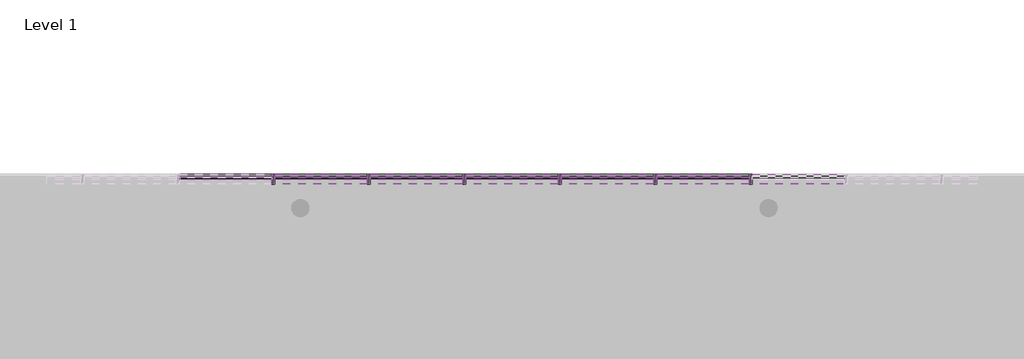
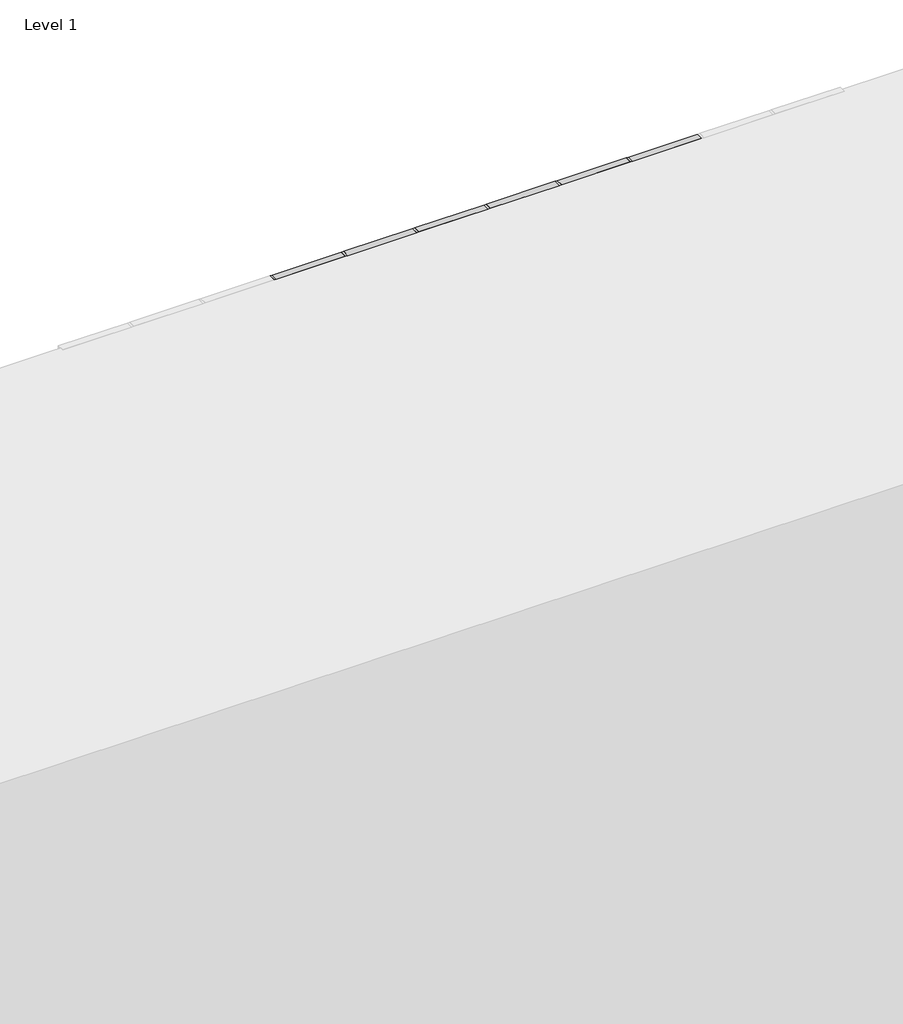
# One storey, part 7 of 18: 90 members, 40 plates.
"""IFC4 building model written with IfcOpenShell, lengths in millimetres."""

from ifc_helpers import new_model, si_unit, origin, place, context, project, spatial, transform, mapped, element, save
from components import rectangular_mullion_50mm_x_150mm_5f185edf, rectangular_mullion_50mm_x_150mm_e13fe9f0, rectangular_mullion_50mm_x_150mm_bbc1c4ea, rectangular_mullion_50mm_x_150mm_36202a7c, rectangular_mullion_50mm_x_150mm_84717ec5, system_panel_glazed_65478968, system_panel_glazed_4c130a31, system_panel_solid_368a6b70, system_panel_solid_ece33ae8

model = new_model("IFC4")

# Units and contexts
model_context = context("Model", 3, world=origin())
ifc_project = project(units=[si_unit("LENGTHUNIT", "METRE", prefix="MILLI")], contexts=[model_context])

# Site, building, storey
site = spatial("IfcSite", under=ifc_project)
building = spatial("IfcBuilding", under=site)
storey = spatial("IfcBuildingStorey", under=building, Name="Level 1", Elevation=0.0)

# Members
placement = place(None, origin())
rectangular_mullion_50mm_x_150mm_shape = rectangular_mullion_50mm_x_150mm_5f185edf(model_context)
element("IfcMember", 1, ObjectType="Rectangular Mullion : 50mm x 150mm", at=placement, inside=storey, context=model_context, shape_type="MappedRepresentation", body=[
    mapped(rectangular_mullion_50mm_x_150mm_shape, transform((41799.3851363, -12132.3615692, 12400.0), x_axis=(0.0, 0.0, 1.0), y_axis=(0.0, 1.0, 0.0), z_axis=(-1.0, 0.0, 0.0))),
])
element("IfcMember", 2, ObjectType="Rectangular Mullion : 50mm x 150mm", at=placement, inside=storey, context=model_context, shape_type="MappedRepresentation", body=[
    mapped(rectangular_mullion_50mm_x_150mm_shape, transform((40306.9119162, -12132.3615692, 12400.0), x_axis=(0.0, 0.0, 1.0), y_axis=(0.0, 1.0, 0.0), z_axis=(-1.0, 0.0, 0.0))),
])
element("IfcMember", 3, ObjectType="Rectangular Mullion : 50mm x 150mm", at=placement, inside=storey, context=model_context, shape_type="MappedRepresentation", body=[
    mapped(rectangular_mullion_50mm_x_150mm_shape, transform((38814.438696, -12132.3615692, 12400.0), x_axis=(0.0, 0.0, 1.0), y_axis=(0.0, 1.0, 0.0), z_axis=(-1.0, 0.0, 0.0))),
])
element("IfcMember", 4, ObjectType="Rectangular Mullion : 50mm x 150mm", at=placement, inside=storey, context=model_context, shape_type="MappedRepresentation", body=[
    mapped(rectangular_mullion_50mm_x_150mm_shape, transform((37321.9654758, -12132.3615692, 12400.0), x_axis=(0.0, 0.0, 1.0), y_axis=(0.0, 1.0, 0.0), z_axis=(-1.0, 0.0, 0.0))),
])
element("IfcMember", 5, ObjectType="Rectangular Mullion : 50mm x 150mm", at=placement, inside=storey, context=model_context, shape_type="MappedRepresentation", body=[
    mapped(rectangular_mullion_50mm_x_150mm_shape, transform((35829.4922557, -12132.3615692, 12400.0), x_axis=(0.0, 0.0, 1.0), y_axis=(0.0, 1.0, 0.0), z_axis=(-1.0, 0.0, 0.0))),
])
element("IfcMember", 6, ObjectType="Rectangular Mullion : 50mm x 150mm", at=placement, inside=storey, context=model_context, shape_type="MappedRepresentation", body=[
    mapped(rectangular_mullion_50mm_x_150mm_shape, transform((34337.0190355, -12132.3615692, 12400.0), x_axis=(0.0, 0.0, 1.0), y_axis=(0.0, 1.0, 0.0), z_axis=(-1.0, 0.0, 0.0))),
])
element("IfcMember", 7, ObjectType="Rectangular Mullion : 50mm x 150mm", at=placement, inside=storey, context=model_context, shape_type="MappedRepresentation", body=[
    mapped(rectangular_mullion_50mm_x_150mm_shape, transform((41749.3851363, -12132.3615692, 0.0), x_axis=(0.0, 0.0, -1.0), y_axis=(0.0, 1.0, 0.0), z_axis=(1.0, 0.0, 0.0))),
])
element("IfcMember", 8, ObjectType="Rectangular Mullion : 50mm x 150mm", at=placement, inside=storey, context=model_context, shape_type="MappedRepresentation", body=[
    mapped(rectangular_mullion_50mm_x_150mm_shape, transform((40256.9119162, -12132.3615692, 0.0), x_axis=(0.0, 0.0, -1.0), y_axis=(0.0, 1.0, 0.0), z_axis=(1.0, 0.0, 0.0))),
])
element("IfcMember", 9, ObjectType="Rectangular Mullion : 50mm x 150mm", at=placement, inside=storey, context=model_context, shape_type="MappedRepresentation", body=[
    mapped(rectangular_mullion_50mm_x_150mm_shape, transform((38764.438696, -12132.3615692, 0.0), x_axis=(0.0, 0.0, -1.0), y_axis=(0.0, 1.0, 0.0), z_axis=(1.0, 0.0, 0.0))),
])
element("IfcMember", 10, ObjectType="Rectangular Mullion : 50mm x 150mm", at=placement, inside=storey, context=model_context, shape_type="MappedRepresentation", body=[
    mapped(rectangular_mullion_50mm_x_150mm_shape, transform((37271.9654758, -12132.3615692, 0.0), x_axis=(0.0, 0.0, -1.0), y_axis=(0.0, 1.0, 0.0), z_axis=(1.0, 0.0, 0.0))),
])
element("IfcMember", 11, ObjectType="Rectangular Mullion : 50mm x 150mm", at=placement, inside=storey, context=model_context, shape_type="MappedRepresentation", body=[
    mapped(rectangular_mullion_50mm_x_150mm_shape, transform((35779.4922557, -12132.3615692, 0.0), x_axis=(0.0, 0.0, -1.0), y_axis=(0.0, 1.0, 0.0), z_axis=(1.0, 0.0, 0.0))),
])
element("IfcMember", 12, ObjectType="Rectangular Mullion : 50mm x 150mm", at=placement, inside=storey, context=model_context, shape_type="MappedRepresentation", body=[
    mapped(rectangular_mullion_50mm_x_150mm_shape, transform((34287.0190355, -12132.3615692, 0.0), x_axis=(0.0, 0.0, -1.0), y_axis=(0.0, 1.0, 0.0), z_axis=(1.0, 0.0, 0.0))),
])
rectangular_mullion_50mm_x_150mm_2_shape = rectangular_mullion_50mm_x_150mm_e13fe9f0(model_context)
element("IfcMember", 13, ObjectType="Rectangular Mullion : 50mm x 150mm", at=placement, inside=storey, context=model_context, shape_type="MappedRepresentation", body=[
    mapped(rectangular_mullion_50mm_x_150mm_2_shape, transform((41799.3851363, -12132.3615692, 3800.0), x_axis=(0.0, 0.0, 1.0), y_axis=(0.0, 1.0, 0.0), z_axis=(-1.0, 0.0, 0.0))),
])
element("IfcMember", 14, ObjectType="Rectangular Mullion : 50mm x 150mm", at=placement, inside=storey, context=model_context, shape_type="MappedRepresentation", body=[
    mapped(rectangular_mullion_50mm_x_150mm_2_shape, transform((40306.9119162, -12132.3615692, 3800.0), x_axis=(0.0, 0.0, 1.0), y_axis=(0.0, 1.0, 0.0), z_axis=(-1.0, 0.0, 0.0))),
])
element("IfcMember", 15, ObjectType="Rectangular Mullion : 50mm x 150mm", at=placement, inside=storey, context=model_context, shape_type="MappedRepresentation", body=[
    mapped(rectangular_mullion_50mm_x_150mm_2_shape, transform((38814.438696, -12132.3615692, 3800.0), x_axis=(0.0, 0.0, 1.0), y_axis=(0.0, 1.0, 0.0), z_axis=(-1.0, 0.0, 0.0))),
])
element("IfcMember", 16, ObjectType="Rectangular Mullion : 50mm x 150mm", at=placement, inside=storey, context=model_context, shape_type="MappedRepresentation", body=[
    mapped(rectangular_mullion_50mm_x_150mm_2_shape, transform((37321.9654758, -12132.3615692, 3800.0), x_axis=(0.0, 0.0, 1.0), y_axis=(0.0, 1.0, 0.0), z_axis=(-1.0, 0.0, 0.0))),
])
element("IfcMember", 17, ObjectType="Rectangular Mullion : 50mm x 150mm", at=placement, inside=storey, context=model_context, shape_type="MappedRepresentation", body=[
    mapped(rectangular_mullion_50mm_x_150mm_2_shape, transform((35829.4922557, -12132.3615692, 3800.0), x_axis=(0.0, 0.0, 1.0), y_axis=(0.0, 1.0, 0.0), z_axis=(-1.0, 0.0, 0.0))),
])
element("IfcMember", 18, ObjectType="Rectangular Mullion : 50mm x 150mm", at=placement, inside=storey, context=model_context, shape_type="MappedRepresentation", body=[
    mapped(rectangular_mullion_50mm_x_150mm_2_shape, transform((34337.0190355, -12132.3615692, 3800.0), x_axis=(0.0, 0.0, 1.0), y_axis=(0.0, 1.0, 0.0), z_axis=(-1.0, 0.0, 0.0))),
])
element("IfcMember", 19, ObjectType="Rectangular Mullion : 50mm x 150mm", at=placement, inside=storey, context=model_context, shape_type="MappedRepresentation", body=[
    mapped(rectangular_mullion_50mm_x_150mm_2_shape, transform((41799.3851363, -12132.3615692, 7600.0), x_axis=(0.0, 0.0, 1.0), y_axis=(0.0, 1.0, 0.0), z_axis=(-1.0, 0.0, 0.0))),
])
element("IfcMember", 20, ObjectType="Rectangular Mullion : 50mm x 150mm", at=placement, inside=storey, context=model_context, shape_type="MappedRepresentation", body=[
    mapped(rectangular_mullion_50mm_x_150mm_2_shape, transform((40306.9119162, -12132.3615692, 7600.0), x_axis=(0.0, 0.0, 1.0), y_axis=(0.0, 1.0, 0.0), z_axis=(-1.0, 0.0, 0.0))),
])
element("IfcMember", 21, ObjectType="Rectangular Mullion : 50mm x 150mm", at=placement, inside=storey, context=model_context, shape_type="MappedRepresentation", body=[
    mapped(rectangular_mullion_50mm_x_150mm_2_shape, transform((38814.438696, -12132.3615692, 7600.0), x_axis=(0.0, 0.0, 1.0), y_axis=(0.0, 1.0, 0.0), z_axis=(-1.0, 0.0, 0.0))),
])
element("IfcMember", 22, ObjectType="Rectangular Mullion : 50mm x 150mm", at=placement, inside=storey, context=model_context, shape_type="MappedRepresentation", body=[
    mapped(rectangular_mullion_50mm_x_150mm_2_shape, transform((37321.9654758, -12132.3615692, 7600.0), x_axis=(0.0, 0.0, 1.0), y_axis=(0.0, 1.0, 0.0), z_axis=(-1.0, 0.0, 0.0))),
])
element("IfcMember", 23, ObjectType="Rectangular Mullion : 50mm x 150mm", at=placement, inside=storey, context=model_context, shape_type="MappedRepresentation", body=[
    mapped(rectangular_mullion_50mm_x_150mm_2_shape, transform((35829.4922557, -12132.3615692, 7600.0), x_axis=(0.0, 0.0, 1.0), y_axis=(0.0, 1.0, 0.0), z_axis=(-1.0, 0.0, 0.0))),
])
element("IfcMember", 24, ObjectType="Rectangular Mullion : 50mm x 150mm", at=placement, inside=storey, context=model_context, shape_type="MappedRepresentation", body=[
    mapped(rectangular_mullion_50mm_x_150mm_2_shape, transform((34337.0190355, -12132.3615692, 7600.0), x_axis=(0.0, 0.0, 1.0), y_axis=(0.0, 1.0, 0.0), z_axis=(-1.0, 0.0, 0.0))),
])
element("IfcMember", 25, ObjectType="Rectangular Mullion : 50mm x 150mm", at=placement, inside=storey, context=model_context, shape_type="MappedRepresentation", body=[
    mapped(rectangular_mullion_50mm_x_150mm_2_shape, transform((41799.3851363, -12132.3615692, 11400.0), x_axis=(0.0, 0.0, 1.0), y_axis=(0.0, 1.0, 0.0), z_axis=(-1.0, 0.0, 0.0))),
])
element("IfcMember", 26, ObjectType="Rectangular Mullion : 50mm x 150mm", at=placement, inside=storey, context=model_context, shape_type="MappedRepresentation", body=[
    mapped(rectangular_mullion_50mm_x_150mm_2_shape, transform((40306.9119162, -12132.3615692, 11400.0), x_axis=(0.0, 0.0, 1.0), y_axis=(0.0, 1.0, 0.0), z_axis=(-1.0, 0.0, 0.0))),
])
element("IfcMember", 27, ObjectType="Rectangular Mullion : 50mm x 150mm", at=placement, inside=storey, context=model_context, shape_type="MappedRepresentation", body=[
    mapped(rectangular_mullion_50mm_x_150mm_2_shape, transform((38814.438696, -12132.3615692, 11400.0), x_axis=(0.0, 0.0, 1.0), y_axis=(0.0, 1.0, 0.0), z_axis=(-1.0, 0.0, 0.0))),
])
element("IfcMember", 28, ObjectType="Rectangular Mullion : 50mm x 150mm", at=placement, inside=storey, context=model_context, shape_type="MappedRepresentation", body=[
    mapped(rectangular_mullion_50mm_x_150mm_2_shape, transform((37321.9654758, -12132.3615692, 11400.0), x_axis=(0.0, 0.0, 1.0), y_axis=(0.0, 1.0, 0.0), z_axis=(-1.0, 0.0, 0.0))),
])
element("IfcMember", 29, ObjectType="Rectangular Mullion : 50mm x 150mm", at=placement, inside=storey, context=model_context, shape_type="MappedRepresentation", body=[
    mapped(rectangular_mullion_50mm_x_150mm_2_shape, transform((35829.4922557, -12132.3615692, 11400.0), x_axis=(0.0, 0.0, 1.0), y_axis=(0.0, 1.0, 0.0), z_axis=(-1.0, 0.0, 0.0))),
])
element("IfcMember", 30, ObjectType="Rectangular Mullion : 50mm x 150mm", at=placement, inside=storey, context=model_context, shape_type="MappedRepresentation", body=[
    mapped(rectangular_mullion_50mm_x_150mm_2_shape, transform((34337.0190355, -12132.3615692, 11400.0), x_axis=(0.0, 0.0, 1.0), y_axis=(0.0, 1.0, 0.0), z_axis=(-1.0, 0.0, 0.0))),
])
element("IfcMember", 31, ObjectType="Rectangular Mullion : 50mm x 150mm", at=placement, inside=storey, context=model_context, shape_type="MappedRepresentation", body=[
    mapped(rectangular_mullion_50mm_x_150mm_2_shape, transform((41799.3851363, -12132.3615692, 2440.0), x_axis=(0.0, 0.0, 1.0), y_axis=(0.0, 1.0, 0.0), z_axis=(-1.0, 0.0, 0.0))),
])
element("IfcMember", 32, ObjectType="Rectangular Mullion : 50mm x 150mm", at=placement, inside=storey, context=model_context, shape_type="MappedRepresentation", body=[
    mapped(rectangular_mullion_50mm_x_150mm_2_shape, transform((40306.9119162, -12132.3615692, 2440.0), x_axis=(0.0, 0.0, 1.0), y_axis=(0.0, 1.0, 0.0), z_axis=(-1.0, 0.0, 0.0))),
])
element("IfcMember", 33, ObjectType="Rectangular Mullion : 50mm x 150mm", at=placement, inside=storey, context=model_context, shape_type="MappedRepresentation", body=[
    mapped(rectangular_mullion_50mm_x_150mm_2_shape, transform((38814.438696, -12132.3615692, 2440.0), x_axis=(0.0, 0.0, 1.0), y_axis=(0.0, 1.0, 0.0), z_axis=(-1.0, 0.0, 0.0))),
])
element("IfcMember", 34, ObjectType="Rectangular Mullion : 50mm x 150mm", at=placement, inside=storey, context=model_context, shape_type="MappedRepresentation", body=[
    mapped(rectangular_mullion_50mm_x_150mm_2_shape, transform((37321.9654758, -12132.3615692, 2440.0), x_axis=(0.0, 0.0, 1.0), y_axis=(0.0, 1.0, 0.0), z_axis=(-1.0, 0.0, 0.0))),
])
element("IfcMember", 35, ObjectType="Rectangular Mullion : 50mm x 150mm", at=placement, inside=storey, context=model_context, shape_type="MappedRepresentation", body=[
    mapped(rectangular_mullion_50mm_x_150mm_2_shape, transform((35829.4922557, -12132.3615692, 2440.0), x_axis=(0.0, 0.0, 1.0), y_axis=(0.0, 1.0, 0.0), z_axis=(-1.0, 0.0, 0.0))),
])
element("IfcMember", 36, ObjectType="Rectangular Mullion : 50mm x 150mm", at=placement, inside=storey, context=model_context, shape_type="MappedRepresentation", body=[
    mapped(rectangular_mullion_50mm_x_150mm_2_shape, transform((34337.0190355, -12132.3615692, 2440.0), x_axis=(0.0, 0.0, 1.0), y_axis=(0.0, 1.0, 0.0), z_axis=(-1.0, 0.0, 0.0))),
])
element("IfcMember", 37, ObjectType="Rectangular Mullion : 50mm x 150mm", at=placement, inside=storey, context=model_context, shape_type="MappedRepresentation", body=[
    mapped(rectangular_mullion_50mm_x_150mm_2_shape, transform((41799.3851363, -12132.3615692, 6240.0), x_axis=(0.0, 0.0, 1.0), y_axis=(0.0, 1.0, 0.0), z_axis=(-1.0, 0.0, 0.0))),
])
element("IfcMember", 38, ObjectType="Rectangular Mullion : 50mm x 150mm", at=placement, inside=storey, context=model_context, shape_type="MappedRepresentation", body=[
    mapped(rectangular_mullion_50mm_x_150mm_2_shape, transform((40306.9119162, -12132.3615692, 6240.0), x_axis=(0.0, 0.0, 1.0), y_axis=(0.0, 1.0, 0.0), z_axis=(-1.0, 0.0, 0.0))),
])
element("IfcMember", 39, ObjectType="Rectangular Mullion : 50mm x 150mm", at=placement, inside=storey, context=model_context, shape_type="MappedRepresentation", body=[
    mapped(rectangular_mullion_50mm_x_150mm_2_shape, transform((38814.438696, -12132.3615692, 6240.0), x_axis=(0.0, 0.0, 1.0), y_axis=(0.0, 1.0, 0.0), z_axis=(-1.0, 0.0, 0.0))),
])
element("IfcMember", 40, ObjectType="Rectangular Mullion : 50mm x 150mm", at=placement, inside=storey, context=model_context, shape_type="MappedRepresentation", body=[
    mapped(rectangular_mullion_50mm_x_150mm_2_shape, transform((37321.9654758, -12132.3615692, 6240.0), x_axis=(0.0, 0.0, 1.0), y_axis=(0.0, 1.0, 0.0), z_axis=(-1.0, 0.0, 0.0))),
])
element("IfcMember", 41, ObjectType="Rectangular Mullion : 50mm x 150mm", at=placement, inside=storey, context=model_context, shape_type="MappedRepresentation", body=[
    mapped(rectangular_mullion_50mm_x_150mm_2_shape, transform((35829.4922557, -12132.3615692, 6240.0), x_axis=(0.0, 0.0, 1.0), y_axis=(0.0, 1.0, 0.0), z_axis=(-1.0, 0.0, 0.0))),
])
element("IfcMember", 42, ObjectType="Rectangular Mullion : 50mm x 150mm", at=placement, inside=storey, context=model_context, shape_type="MappedRepresentation", body=[
    mapped(rectangular_mullion_50mm_x_150mm_2_shape, transform((34337.0190355, -12132.3615692, 6240.0), x_axis=(0.0, 0.0, 1.0), y_axis=(0.0, 1.0, 0.0), z_axis=(-1.0, 0.0, 0.0))),
])
element("IfcMember", 43, ObjectType="Rectangular Mullion : 50mm x 150mm", at=placement, inside=storey, context=model_context, shape_type="MappedRepresentation", body=[
    mapped(rectangular_mullion_50mm_x_150mm_2_shape, transform((41799.3851363, -12132.3615692, 10040.0), x_axis=(0.0, 0.0, 1.0), y_axis=(0.0, 1.0, 0.0), z_axis=(-1.0, 0.0, 0.0))),
])
element("IfcMember", 44, ObjectType="Rectangular Mullion : 50mm x 150mm", at=placement, inside=storey, context=model_context, shape_type="MappedRepresentation", body=[
    mapped(rectangular_mullion_50mm_x_150mm_2_shape, transform((40306.9119162, -12132.3615692, 10040.0), x_axis=(0.0, 0.0, 1.0), y_axis=(0.0, 1.0, 0.0), z_axis=(-1.0, 0.0, 0.0))),
])
element("IfcMember", 45, ObjectType="Rectangular Mullion : 50mm x 150mm", at=placement, inside=storey, context=model_context, shape_type="MappedRepresentation", body=[
    mapped(rectangular_mullion_50mm_x_150mm_2_shape, transform((38814.438696, -12132.3615692, 10040.0), x_axis=(0.0, 0.0, 1.0), y_axis=(0.0, 1.0, 0.0), z_axis=(-1.0, 0.0, 0.0))),
])
element("IfcMember", 46, ObjectType="Rectangular Mullion : 50mm x 150mm", at=placement, inside=storey, context=model_context, shape_type="MappedRepresentation", body=[
    mapped(rectangular_mullion_50mm_x_150mm_2_shape, transform((37321.9654758, -12132.3615692, 10040.0), x_axis=(0.0, 0.0, 1.0), y_axis=(0.0, 1.0, 0.0), z_axis=(-1.0, 0.0, 0.0))),
])
element("IfcMember", 47, ObjectType="Rectangular Mullion : 50mm x 150mm", at=placement, inside=storey, context=model_context, shape_type="MappedRepresentation", body=[
    mapped(rectangular_mullion_50mm_x_150mm_2_shape, transform((35829.4922557, -12132.3615692, 10040.0), x_axis=(0.0, 0.0, 1.0), y_axis=(0.0, 1.0, 0.0), z_axis=(-1.0, 0.0, 0.0))),
])
element("IfcMember", 48, ObjectType="Rectangular Mullion : 50mm x 150mm", at=placement, inside=storey, context=model_context, shape_type="MappedRepresentation", body=[
    mapped(rectangular_mullion_50mm_x_150mm_2_shape, transform((34337.0190355, -12132.3615692, 10040.0), x_axis=(0.0, 0.0, 1.0), y_axis=(0.0, 1.0, 0.0), z_axis=(-1.0, 0.0, 0.0))),
])
rectangular_mullion_50mm_x_150mm_3_shape = rectangular_mullion_50mm_x_150mm_bbc1c4ea(model_context)
element("IfcMember", 49, ObjectType="Rectangular Mullion : 50mm x 150mm", at=placement, inside=storey, context=model_context, shape_type="MappedRepresentation", body=[
    mapped(rectangular_mullion_50mm_x_150mm_3_shape, transform((41774.3851363, -12132.3615692, 11400.0), x_axis=(-1.0, 0.0, 0.0), y_axis=(0.0, 1.0, 0.0), z_axis=(0.0, 0.0, -1.0))),
])
element("IfcMember", 50, ObjectType="Rectangular Mullion : 50mm x 150mm", at=placement, inside=storey, context=model_context, shape_type="MappedRepresentation", body=[
    mapped(rectangular_mullion_50mm_x_150mm_3_shape, transform((40281.9119162, -12132.3615692, 11400.0), x_axis=(-1.0, 0.0, 0.0), y_axis=(0.0, 1.0, 0.0), z_axis=(0.0, 0.0, -1.0))),
])
element("IfcMember", 51, ObjectType="Rectangular Mullion : 50mm x 150mm", at=placement, inside=storey, context=model_context, shape_type="MappedRepresentation", body=[
    mapped(rectangular_mullion_50mm_x_150mm_3_shape, transform((38789.438696, -12132.3615692, 11400.0), x_axis=(-1.0, 0.0, 0.0), y_axis=(0.0, 1.0, 0.0), z_axis=(0.0, 0.0, -1.0))),
])
element("IfcMember", 52, ObjectType="Rectangular Mullion : 50mm x 150mm", at=placement, inside=storey, context=model_context, shape_type="MappedRepresentation", body=[
    mapped(rectangular_mullion_50mm_x_150mm_3_shape, transform((37296.9654758, -12132.3615692, 11400.0), x_axis=(-1.0, 0.0, 0.0), y_axis=(0.0, 1.0, 0.0), z_axis=(0.0, 0.0, -1.0))),
])
element("IfcMember", 53, ObjectType="Rectangular Mullion : 50mm x 150mm", at=placement, inside=storey, context=model_context, shape_type="MappedRepresentation", body=[
    mapped(rectangular_mullion_50mm_x_150mm_3_shape, transform((35804.4922557, -12132.3615692, 11400.0), x_axis=(-1.0, 0.0, 0.0), y_axis=(0.0, 1.0, 0.0), z_axis=(0.0, 0.0, -1.0))),
])
element("IfcMember", 54, ObjectType="Rectangular Mullion : 50mm x 150mm", at=placement, inside=storey, context=model_context, shape_type="MappedRepresentation", body=[
    mapped(rectangular_mullion_50mm_x_150mm_3_shape, transform((34312.0190355, -12132.3615692, 11400.0), x_axis=(-1.0, 0.0, 0.0), y_axis=(0.0, 1.0, 0.0), z_axis=(0.0, 0.0, -1.0))),
])
rectangular_mullion_50mm_x_150mm_4_shape = rectangular_mullion_50mm_x_150mm_36202a7c(model_context)
element("IfcMember", 55, ObjectType="Rectangular Mullion : 50mm x 150mm", at=placement, inside=storey, context=model_context, shape_type="MappedRepresentation", body=[
    mapped(rectangular_mullion_50mm_x_150mm_4_shape, transform((41774.3851363, -12132.3615692, 0.0), x_axis=(-1.0, 0.0, 0.0), y_axis=(0.0, 1.0, 0.0), z_axis=(0.0, 0.0, -1.0))),
])
element("IfcMember", 56, ObjectType="Rectangular Mullion : 50mm x 150mm", at=placement, inside=storey, context=model_context, shape_type="MappedRepresentation", body=[
    mapped(rectangular_mullion_50mm_x_150mm_4_shape, transform((40281.9119162, -12132.3615692, 0.0), x_axis=(-1.0, 0.0, 0.0), y_axis=(0.0, 1.0, 0.0), z_axis=(0.0, 0.0, -1.0))),
])
element("IfcMember", 57, ObjectType="Rectangular Mullion : 50mm x 150mm", at=placement, inside=storey, context=model_context, shape_type="MappedRepresentation", body=[
    mapped(rectangular_mullion_50mm_x_150mm_4_shape, transform((38789.438696, -12132.3615692, 0.0), x_axis=(-1.0, 0.0, 0.0), y_axis=(0.0, 1.0, 0.0), z_axis=(0.0, 0.0, -1.0))),
])
element("IfcMember", 58, ObjectType="Rectangular Mullion : 50mm x 150mm", at=placement, inside=storey, context=model_context, shape_type="MappedRepresentation", body=[
    mapped(rectangular_mullion_50mm_x_150mm_4_shape, transform((37296.9654758, -12132.3615692, 0.0), x_axis=(-1.0, 0.0, 0.0), y_axis=(0.0, 1.0, 0.0), z_axis=(0.0, 0.0, -1.0))),
])
element("IfcMember", 59, ObjectType="Rectangular Mullion : 50mm x 150mm", at=placement, inside=storey, context=model_context, shape_type="MappedRepresentation", body=[
    mapped(rectangular_mullion_50mm_x_150mm_4_shape, transform((35804.4922557, -12132.3615692, 0.0), x_axis=(-1.0, 0.0, 0.0), y_axis=(0.0, 1.0, 0.0), z_axis=(0.0, 0.0, -1.0))),
])
element("IfcMember", 60, ObjectType="Rectangular Mullion : 50mm x 150mm", at=placement, inside=storey, context=model_context, shape_type="MappedRepresentation", body=[
    mapped(rectangular_mullion_50mm_x_150mm_4_shape, transform((34312.0190355, -12132.3615692, 0.0), x_axis=(-1.0, 0.0, 0.0), y_axis=(0.0, 1.0, 0.0), z_axis=(0.0, 0.0, -1.0))),
])
rectangular_mullion_50mm_x_150mm_5_shape = rectangular_mullion_50mm_x_150mm_84717ec5(model_context)
element("IfcMember", 61, ObjectType="Rectangular Mullion : 50mm x 150mm", at=placement, inside=storey, context=model_context, shape_type="MappedRepresentation", body=[
    mapped(rectangular_mullion_50mm_x_150mm_5_shape, transform((41774.3851363, -12132.3615692, 2440.0), x_axis=(-1.0, 0.0, 0.0), y_axis=(0.0, 1.0, 0.0), z_axis=(0.0, 0.0, -1.0))),
])
element("IfcMember", 62, ObjectType="Rectangular Mullion : 50mm x 150mm", at=placement, inside=storey, context=model_context, shape_type="MappedRepresentation", body=[
    mapped(rectangular_mullion_50mm_x_150mm_5_shape, transform((40281.9119162, -12132.3615692, 2440.0), x_axis=(-1.0, 0.0, 0.0), y_axis=(0.0, 1.0, 0.0), z_axis=(0.0, 0.0, -1.0))),
])
element("IfcMember", 63, ObjectType="Rectangular Mullion : 50mm x 150mm", at=placement, inside=storey, context=model_context, shape_type="MappedRepresentation", body=[
    mapped(rectangular_mullion_50mm_x_150mm_5_shape, transform((38789.438696, -12132.3615692, 2440.0), x_axis=(-1.0, 0.0, 0.0), y_axis=(0.0, 1.0, 0.0), z_axis=(0.0, 0.0, -1.0))),
])
element("IfcMember", 64, ObjectType="Rectangular Mullion : 50mm x 150mm", at=placement, inside=storey, context=model_context, shape_type="MappedRepresentation", body=[
    mapped(rectangular_mullion_50mm_x_150mm_5_shape, transform((37296.9654758, -12132.3615692, 2440.0), x_axis=(-1.0, 0.0, 0.0), y_axis=(0.0, 1.0, 0.0), z_axis=(0.0, 0.0, -1.0))),
])
element("IfcMember", 65, ObjectType="Rectangular Mullion : 50mm x 150mm", at=placement, inside=storey, context=model_context, shape_type="MappedRepresentation", body=[
    mapped(rectangular_mullion_50mm_x_150mm_5_shape, transform((35804.4922557, -12132.3615692, 2440.0), x_axis=(-1.0, 0.0, 0.0), y_axis=(0.0, 1.0, 0.0), z_axis=(0.0, 0.0, -1.0))),
])
element("IfcMember", 66, ObjectType="Rectangular Mullion : 50mm x 150mm", at=placement, inside=storey, context=model_context, shape_type="MappedRepresentation", body=[
    mapped(rectangular_mullion_50mm_x_150mm_5_shape, transform((34312.0190355, -12132.3615692, 2440.0), x_axis=(-1.0, 0.0, 0.0), y_axis=(0.0, 1.0, 0.0), z_axis=(0.0, 0.0, -1.0))),
])
element("IfcMember", 67, ObjectType="Rectangular Mullion : 50mm x 150mm", at=placement, inside=storey, context=model_context, shape_type="MappedRepresentation", body=[
    mapped(rectangular_mullion_50mm_x_150mm_5_shape, transform((41774.3851363, -12132.3615692, 6240.0), x_axis=(-1.0, 0.0, 0.0), y_axis=(0.0, 1.0, 0.0), z_axis=(0.0, 0.0, -1.0))),
])
element("IfcMember", 68, ObjectType="Rectangular Mullion : 50mm x 150mm", at=placement, inside=storey, context=model_context, shape_type="MappedRepresentation", body=[
    mapped(rectangular_mullion_50mm_x_150mm_5_shape, transform((40281.9119162, -12132.3615692, 6240.0), x_axis=(-1.0, 0.0, 0.0), y_axis=(0.0, 1.0, 0.0), z_axis=(0.0, 0.0, -1.0))),
])
element("IfcMember", 69, ObjectType="Rectangular Mullion : 50mm x 150mm", at=placement, inside=storey, context=model_context, shape_type="MappedRepresentation", body=[
    mapped(rectangular_mullion_50mm_x_150mm_5_shape, transform((38789.438696, -12132.3615692, 6240.0), x_axis=(-1.0, 0.0, 0.0), y_axis=(0.0, 1.0, 0.0), z_axis=(0.0, 0.0, -1.0))),
])
element("IfcMember", 70, ObjectType="Rectangular Mullion : 50mm x 150mm", at=placement, inside=storey, context=model_context, shape_type="MappedRepresentation", body=[
    mapped(rectangular_mullion_50mm_x_150mm_5_shape, transform((37296.9654758, -12132.3615692, 6240.0), x_axis=(-1.0, 0.0, 0.0), y_axis=(0.0, 1.0, 0.0), z_axis=(0.0, 0.0, -1.0))),
])
element("IfcMember", 71, ObjectType="Rectangular Mullion : 50mm x 150mm", at=placement, inside=storey, context=model_context, shape_type="MappedRepresentation", body=[
    mapped(rectangular_mullion_50mm_x_150mm_5_shape, transform((35804.4922557, -12132.3615692, 6240.0), x_axis=(-1.0, 0.0, 0.0), y_axis=(0.0, 1.0, 0.0), z_axis=(0.0, 0.0, -1.0))),
])
element("IfcMember", 72, ObjectType="Rectangular Mullion : 50mm x 150mm", at=placement, inside=storey, context=model_context, shape_type="MappedRepresentation", body=[
    mapped(rectangular_mullion_50mm_x_150mm_5_shape, transform((34312.0190355, -12132.3615692, 6240.0), x_axis=(-1.0, 0.0, 0.0), y_axis=(0.0, 1.0, 0.0), z_axis=(0.0, 0.0, -1.0))),
])
element("IfcMember", 73, ObjectType="Rectangular Mullion : 50mm x 150mm", at=placement, inside=storey, context=model_context, shape_type="MappedRepresentation", body=[
    mapped(rectangular_mullion_50mm_x_150mm_5_shape, transform((41774.3851363, -12132.3615692, 10040.0), x_axis=(-1.0, 0.0, 0.0), y_axis=(0.0, 1.0, 0.0), z_axis=(0.0, 0.0, -1.0))),
])
element("IfcMember", 74, ObjectType="Rectangular Mullion : 50mm x 150mm", at=placement, inside=storey, context=model_context, shape_type="MappedRepresentation", body=[
    mapped(rectangular_mullion_50mm_x_150mm_5_shape, transform((40281.9119162, -12132.3615692, 10040.0), x_axis=(-1.0, 0.0, 0.0), y_axis=(0.0, 1.0, 0.0), z_axis=(0.0, 0.0, -1.0))),
])
element("IfcMember", 75, ObjectType="Rectangular Mullion : 50mm x 150mm", at=placement, inside=storey, context=model_context, shape_type="MappedRepresentation", body=[
    mapped(rectangular_mullion_50mm_x_150mm_5_shape, transform((38789.438696, -12132.3615692, 10040.0), x_axis=(-1.0, 0.0, 0.0), y_axis=(0.0, 1.0, 0.0), z_axis=(0.0, 0.0, -1.0))),
])
element("IfcMember", 76, ObjectType="Rectangular Mullion : 50mm x 150mm", at=placement, inside=storey, context=model_context, shape_type="MappedRepresentation", body=[
    mapped(rectangular_mullion_50mm_x_150mm_5_shape, transform((37296.9654758, -12132.3615692, 10040.0), x_axis=(-1.0, 0.0, 0.0), y_axis=(0.0, 1.0, 0.0), z_axis=(0.0, 0.0, -1.0))),
])
element("IfcMember", 77, ObjectType="Rectangular Mullion : 50mm x 150mm", at=placement, inside=storey, context=model_context, shape_type="MappedRepresentation", body=[
    mapped(rectangular_mullion_50mm_x_150mm_5_shape, transform((35804.4922557, -12132.3615692, 10040.0), x_axis=(-1.0, 0.0, 0.0), y_axis=(0.0, 1.0, 0.0), z_axis=(0.0, 0.0, -1.0))),
])
element("IfcMember", 78, ObjectType="Rectangular Mullion : 50mm x 150mm", at=placement, inside=storey, context=model_context, shape_type="MappedRepresentation", body=[
    mapped(rectangular_mullion_50mm_x_150mm_5_shape, transform((34312.0190355, -12132.3615692, 10040.0), x_axis=(-1.0, 0.0, 0.0), y_axis=(0.0, 1.0, 0.0), z_axis=(0.0, 0.0, -1.0))),
])
element("IfcMember", 79, ObjectType="Rectangular Mullion : 50mm x 150mm", at=placement, inside=storey, context=model_context, shape_type="MappedRepresentation", body=[
    mapped(rectangular_mullion_50mm_x_150mm_4_shape, transform((41774.3851363, -12132.3615692, 3800.0), x_axis=(-1.0, 0.0, 0.0), y_axis=(0.0, 1.0, 0.0), z_axis=(0.0, 0.0, -1.0))),
])
element("IfcMember", 80, ObjectType="Rectangular Mullion : 50mm x 150mm", at=placement, inside=storey, context=model_context, shape_type="MappedRepresentation", body=[
    mapped(rectangular_mullion_50mm_x_150mm_4_shape, transform((40281.9119162, -12132.3615692, 3800.0), x_axis=(-1.0, 0.0, 0.0), y_axis=(0.0, 1.0, 0.0), z_axis=(0.0, 0.0, -1.0))),
])
element("IfcMember", 81, ObjectType="Rectangular Mullion : 50mm x 150mm", at=placement, inside=storey, context=model_context, shape_type="MappedRepresentation", body=[
    mapped(rectangular_mullion_50mm_x_150mm_4_shape, transform((38789.438696, -12132.3615692, 3800.0), x_axis=(-1.0, 0.0, 0.0), y_axis=(0.0, 1.0, 0.0), z_axis=(0.0, 0.0, -1.0))),
])
element("IfcMember", 82, ObjectType="Rectangular Mullion : 50mm x 150mm", at=placement, inside=storey, context=model_context, shape_type="MappedRepresentation", body=[
    mapped(rectangular_mullion_50mm_x_150mm_4_shape, transform((37296.9654758, -12132.3615692, 3800.0), x_axis=(-1.0, 0.0, 0.0), y_axis=(0.0, 1.0, 0.0), z_axis=(0.0, 0.0, -1.0))),
])
element("IfcMember", 83, ObjectType="Rectangular Mullion : 50mm x 150mm", at=placement, inside=storey, context=model_context, shape_type="MappedRepresentation", body=[
    mapped(rectangular_mullion_50mm_x_150mm_4_shape, transform((35804.4922557, -12132.3615692, 3800.0), x_axis=(-1.0, 0.0, 0.0), y_axis=(0.0, 1.0, 0.0), z_axis=(0.0, 0.0, -1.0))),
])
element("IfcMember", 84, ObjectType="Rectangular Mullion : 50mm x 150mm", at=placement, inside=storey, context=model_context, shape_type="MappedRepresentation", body=[
    mapped(rectangular_mullion_50mm_x_150mm_4_shape, transform((34312.0190355, -12132.3615692, 3800.0), x_axis=(-1.0, 0.0, 0.0), y_axis=(0.0, 1.0, 0.0), z_axis=(0.0, 0.0, -1.0))),
])
element("IfcMember", 85, ObjectType="Rectangular Mullion : 50mm x 150mm", at=placement, inside=storey, context=model_context, shape_type="MappedRepresentation", body=[
    mapped(rectangular_mullion_50mm_x_150mm_4_shape, transform((41774.3851363, -12132.3615692, 7600.0), x_axis=(-1.0, 0.0, 0.0), y_axis=(0.0, 1.0, 0.0), z_axis=(0.0, 0.0, -1.0))),
])
element("IfcMember", 86, ObjectType="Rectangular Mullion : 50mm x 150mm", at=placement, inside=storey, context=model_context, shape_type="MappedRepresentation", body=[
    mapped(rectangular_mullion_50mm_x_150mm_4_shape, transform((40281.9119162, -12132.3615692, 7600.0), x_axis=(-1.0, 0.0, 0.0), y_axis=(0.0, 1.0, 0.0), z_axis=(0.0, 0.0, -1.0))),
])
element("IfcMember", 87, ObjectType="Rectangular Mullion : 50mm x 150mm", at=placement, inside=storey, context=model_context, shape_type="MappedRepresentation", body=[
    mapped(rectangular_mullion_50mm_x_150mm_4_shape, transform((38789.438696, -12132.3615692, 7600.0), x_axis=(-1.0, 0.0, 0.0), y_axis=(0.0, 1.0, 0.0), z_axis=(0.0, 0.0, -1.0))),
])
element("IfcMember", 88, ObjectType="Rectangular Mullion : 50mm x 150mm", at=placement, inside=storey, context=model_context, shape_type="MappedRepresentation", body=[
    mapped(rectangular_mullion_50mm_x_150mm_4_shape, transform((37296.9654758, -12132.3615692, 7600.0), x_axis=(-1.0, 0.0, 0.0), y_axis=(0.0, 1.0, 0.0), z_axis=(0.0, 0.0, -1.0))),
])
element("IfcMember", 89, ObjectType="Rectangular Mullion : 50mm x 150mm", at=placement, inside=storey, context=model_context, shape_type="MappedRepresentation", body=[
    mapped(rectangular_mullion_50mm_x_150mm_4_shape, transform((35804.4922557, -12132.3615692, 7600.0), x_axis=(-1.0, 0.0, 0.0), y_axis=(0.0, 1.0, 0.0), z_axis=(0.0, 0.0, -1.0))),
])
element("IfcMember", 90, ObjectType="Rectangular Mullion : 50mm x 150mm", at=placement, inside=storey, context=model_context, shape_type="MappedRepresentation", body=[
    mapped(rectangular_mullion_50mm_x_150mm_4_shape, transform((34312.0190355, -12132.3615692, 7600.0), x_axis=(-1.0, 0.0, 0.0), y_axis=(0.0, 1.0, 0.0), z_axis=(0.0, 0.0, -1.0))),
])

# Plates
system_panel_glazed_shape = system_panel_glazed_65478968(model_context)
element("IfcPlate", 91, ObjectType="System Panel : Glazed", at=placement, inside=storey, context=model_context, shape_type="MappedRepresentation", body=[
    mapped(system_panel_glazed_shape, transform((42520.6217464, -12132.3615692, 50.0), x_axis=(-1.0, 0.0, 0.0), y_axis=(0.0, -1.0, 0.0), z_axis=(0.0, 0.0, 1.0))),
])
element("IfcPlate", 92, ObjectType="System Panel : Glazed", at=placement, inside=storey, context=model_context, shape_type="MappedRepresentation", body=[
    mapped(system_panel_glazed_shape, transform((41028.1485262, -12132.3615692, 50.0), x_axis=(-1.0, 0.0, 0.0), y_axis=(0.0, -1.0, 0.0), z_axis=(0.0, 0.0, 1.0))),
])
element("IfcPlate", 93, ObjectType="System Panel : Glazed", at=placement, inside=storey, context=model_context, shape_type="MappedRepresentation", body=[
    mapped(system_panel_glazed_shape, transform((39535.6753061, -12132.3615692, 50.0), x_axis=(-1.0, 0.0, 0.0), y_axis=(0.0, -1.0, 0.0), z_axis=(0.0, 0.0, 1.0))),
])
element("IfcPlate", 94, ObjectType="System Panel : Glazed", at=placement, inside=storey, context=model_context, shape_type="MappedRepresentation", body=[
    mapped(system_panel_glazed_shape, transform((38043.2020859, -12132.3615692, 50.0), x_axis=(-1.0, 0.0, 0.0), y_axis=(0.0, -1.0, 0.0), z_axis=(0.0, 0.0, 1.0))),
])
element("IfcPlate", 95, ObjectType="System Panel : Glazed", at=placement, inside=storey, context=model_context, shape_type="MappedRepresentation", body=[
    mapped(system_panel_glazed_shape, transform((36550.7288658, -12132.3615692, 50.0), x_axis=(-1.0, 0.0, 0.0), y_axis=(0.0, -1.0, 0.0), z_axis=(0.0, 0.0, 1.0))),
])
element("IfcPlate", 96, ObjectType="System Panel : Glazed", at=placement, inside=storey, context=model_context, shape_type="MappedRepresentation", body=[
    mapped(system_panel_glazed_shape, transform((35058.2556456, -12132.3615692, 50.0), x_axis=(-1.0, 0.0, 0.0), y_axis=(0.0, -1.0, 0.0), z_axis=(0.0, 0.0, 1.0))),
])
system_panel_glazed_2_shape = system_panel_glazed_4c130a31(model_context)
element("IfcPlate", 97, ObjectType="System Panel : Glazed", at=placement, inside=storey, context=model_context, shape_type="MappedRepresentation", body=[
    mapped(system_panel_glazed_2_shape, transform((42520.6217464, -12132.3615692, 3825.0), x_axis=(-1.0, 0.0, 0.0), y_axis=(0.0, -1.0, 0.0), z_axis=(0.0, 0.0, 1.0))),
])
element("IfcPlate", 98, ObjectType="System Panel : Glazed", at=placement, inside=storey, context=model_context, shape_type="MappedRepresentation", body=[
    mapped(system_panel_glazed_2_shape, transform((41028.1485262, -12132.3615692, 3825.0), x_axis=(-1.0, 0.0, 0.0), y_axis=(0.0, -1.0, 0.0), z_axis=(0.0, 0.0, 1.0))),
])
element("IfcPlate", 99, ObjectType="System Panel : Glazed", at=placement, inside=storey, context=model_context, shape_type="MappedRepresentation", body=[
    mapped(system_panel_glazed_2_shape, transform((39535.6753061, -12132.3615692, 3825.0), x_axis=(-1.0, 0.0, 0.0), y_axis=(0.0, -1.0, 0.0), z_axis=(0.0, 0.0, 1.0))),
])
element("IfcPlate", 100, ObjectType="System Panel : Glazed", at=placement, inside=storey, context=model_context, shape_type="MappedRepresentation", body=[
    mapped(system_panel_glazed_2_shape, transform((38043.2020859, -12132.3615692, 3825.0), x_axis=(-1.0, 0.0, 0.0), y_axis=(0.0, -1.0, 0.0), z_axis=(0.0, 0.0, 1.0))),
])
element("IfcPlate", 101, ObjectType="System Panel : Glazed", at=placement, inside=storey, context=model_context, shape_type="MappedRepresentation", body=[
    mapped(system_panel_glazed_2_shape, transform((36550.7288658, -12132.3615692, 3825.0), x_axis=(-1.0, 0.0, 0.0), y_axis=(0.0, -1.0, 0.0), z_axis=(0.0, 0.0, 1.0))),
])
element("IfcPlate", 102, ObjectType="System Panel : Glazed", at=placement, inside=storey, context=model_context, shape_type="MappedRepresentation", body=[
    mapped(system_panel_glazed_2_shape, transform((35058.2556456, -12132.3615692, 3825.0), x_axis=(-1.0, 0.0, 0.0), y_axis=(0.0, -1.0, 0.0), z_axis=(0.0, 0.0, 1.0))),
])
element("IfcPlate", 103, ObjectType="System Panel : Glazed", at=placement, inside=storey, context=model_context, shape_type="MappedRepresentation", body=[
    mapped(system_panel_glazed_2_shape, transform((41028.1485262, -12132.3615692, 7625.0), x_axis=(-1.0, 0.0, 0.0), y_axis=(0.0, -1.0, 0.0), z_axis=(0.0, 0.0, 1.0))),
])
element("IfcPlate", 104, ObjectType="System Panel : Glazed", at=placement, inside=storey, context=model_context, shape_type="MappedRepresentation", body=[
    mapped(system_panel_glazed_2_shape, transform((39535.6753061, -12132.3615692, 7625.0), x_axis=(-1.0, 0.0, 0.0), y_axis=(0.0, -1.0, 0.0), z_axis=(0.0, 0.0, 1.0))),
])
element("IfcPlate", 105, ObjectType="System Panel : Glazed", at=placement, inside=storey, context=model_context, shape_type="MappedRepresentation", body=[
    mapped(system_panel_glazed_2_shape, transform((38043.2020859, -12132.3615692, 7625.0), x_axis=(-1.0, 0.0, 0.0), y_axis=(0.0, -1.0, 0.0), z_axis=(0.0, 0.0, 1.0))),
])
element("IfcPlate", 106, ObjectType="System Panel : Glazed", at=placement, inside=storey, context=model_context, shape_type="MappedRepresentation", body=[
    mapped(system_panel_glazed_2_shape, transform((36550.7288658, -12132.3615692, 7625.0), x_axis=(-1.0, 0.0, 0.0), y_axis=(0.0, -1.0, 0.0), z_axis=(0.0, 0.0, 1.0))),
])
element("IfcPlate", 107, ObjectType="System Panel : Glazed", at=placement, inside=storey, context=model_context, shape_type="MappedRepresentation", body=[
    mapped(system_panel_glazed_2_shape, transform((35058.2556456, -12132.3615692, 7625.0), x_axis=(-1.0, 0.0, 0.0), y_axis=(0.0, -1.0, 0.0), z_axis=(0.0, 0.0, 1.0))),
])
system_panel_solid_shape = system_panel_solid_368a6b70(model_context)
element("IfcPlate", 108, ObjectType="System Panel : Solid", at=placement, inside=storey, context=model_context, shape_type="MappedRepresentation", body=[
    mapped(system_panel_solid_shape, transform((41028.1485262, -12132.3615692, 11425.0), x_axis=(-1.0, 0.0, 0.0), y_axis=(0.0, -1.0, 0.0), z_axis=(0.0, 0.0, 1.0))),
])
element("IfcPlate", 109, ObjectType="System Panel : Solid", at=placement, inside=storey, context=model_context, shape_type="MappedRepresentation", body=[
    mapped(system_panel_solid_shape, transform((39535.6753061, -12132.3615692, 11425.0), x_axis=(-1.0, 0.0, 0.0), y_axis=(0.0, -1.0, 0.0), z_axis=(0.0, 0.0, 1.0))),
])
element("IfcPlate", 110, ObjectType="System Panel : Solid", at=placement, inside=storey, context=model_context, shape_type="MappedRepresentation", body=[
    mapped(system_panel_solid_shape, transform((38043.2020859, -12132.3615692, 11425.0), x_axis=(-1.0, 0.0, 0.0), y_axis=(0.0, -1.0, 0.0), z_axis=(0.0, 0.0, 1.0))),
])
element("IfcPlate", 111, ObjectType="System Panel : Solid", at=placement, inside=storey, context=model_context, shape_type="MappedRepresentation", body=[
    mapped(system_panel_solid_shape, transform((36550.7288658, -12132.3615692, 11425.0), x_axis=(-1.0, 0.0, 0.0), y_axis=(0.0, -1.0, 0.0), z_axis=(0.0, 0.0, 1.0))),
])
element("IfcPlate", 112, ObjectType="System Panel : Solid", at=placement, inside=storey, context=model_context, shape_type="MappedRepresentation", body=[
    mapped(system_panel_solid_shape, transform((35058.2556456, -12132.3615692, 11425.0), x_axis=(-1.0, 0.0, 0.0), y_axis=(0.0, -1.0, 0.0), z_axis=(0.0, 0.0, 1.0))),
])
system_panel_solid_2_shape = system_panel_solid_ece33ae8(model_context)
element("IfcPlate", 113, ObjectType="System Panel : Solid", at=placement, inside=storey, context=model_context, shape_type="MappedRepresentation", body=[
    mapped(system_panel_solid_2_shape, transform((41028.1485262, -12132.3615692, 2465.0), x_axis=(-1.0, 0.0, 0.0), y_axis=(0.0, -1.0, 0.0), z_axis=(0.0, 0.0, 1.0))),
])
element("IfcPlate", 114, ObjectType="System Panel : Solid", at=placement, inside=storey, context=model_context, shape_type="MappedRepresentation", body=[
    mapped(system_panel_solid_2_shape, transform((39535.6753061, -12132.3615692, 2465.0), x_axis=(-1.0, 0.0, 0.0), y_axis=(0.0, -1.0, 0.0), z_axis=(0.0, 0.0, 1.0))),
])
element("IfcPlate", 115, ObjectType="System Panel : Solid", at=placement, inside=storey, context=model_context, shape_type="MappedRepresentation", body=[
    mapped(system_panel_solid_2_shape, transform((38043.2020859, -12132.3615692, 2465.0), x_axis=(-1.0, 0.0, 0.0), y_axis=(0.0, -1.0, 0.0), z_axis=(0.0, 0.0, 1.0))),
])
element("IfcPlate", 116, ObjectType="System Panel : Solid", at=placement, inside=storey, context=model_context, shape_type="MappedRepresentation", body=[
    mapped(system_panel_solid_2_shape, transform((36550.7288658, -12132.3615692, 2465.0), x_axis=(-1.0, 0.0, 0.0), y_axis=(0.0, -1.0, 0.0), z_axis=(0.0, 0.0, 1.0))),
])
element("IfcPlate", 117, ObjectType="System Panel : Solid", at=placement, inside=storey, context=model_context, shape_type="MappedRepresentation", body=[
    mapped(system_panel_solid_2_shape, transform((35058.2556456, -12132.3615692, 2465.0), x_axis=(-1.0, 0.0, 0.0), y_axis=(0.0, -1.0, 0.0), z_axis=(0.0, 0.0, 1.0))),
])
element("IfcPlate", 118, ObjectType="System Panel : Solid", at=placement, inside=storey, context=model_context, shape_type="MappedRepresentation", body=[
    mapped(system_panel_solid_2_shape, transform((33565.7824254, -12132.3615692, 2465.0), x_axis=(-1.0, 0.0, 0.0), y_axis=(0.0, -1.0, 0.0), z_axis=(0.0, 0.0, 1.0))),
])
element("IfcPlate", 119, ObjectType="System Panel : Solid", at=placement, inside=storey, context=model_context, shape_type="MappedRepresentation", body=[
    mapped(system_panel_solid_2_shape, transform((41028.1485262, -12132.3615692, 6265.0), x_axis=(-1.0, 0.0, 0.0), y_axis=(0.0, -1.0, 0.0), z_axis=(0.0, 0.0, 1.0))),
])
element("IfcPlate", 120, ObjectType="System Panel : Solid", at=placement, inside=storey, context=model_context, shape_type="MappedRepresentation", body=[
    mapped(system_panel_solid_2_shape, transform((39535.6753061, -12132.3615692, 6265.0), x_axis=(-1.0, 0.0, 0.0), y_axis=(0.0, -1.0, 0.0), z_axis=(0.0, 0.0, 1.0))),
])
element("IfcPlate", 121, ObjectType="System Panel : Solid", at=placement, inside=storey, context=model_context, shape_type="MappedRepresentation", body=[
    mapped(system_panel_solid_2_shape, transform((38043.2020859, -12132.3615692, 6265.0), x_axis=(-1.0, 0.0, 0.0), y_axis=(0.0, -1.0, 0.0), z_axis=(0.0, 0.0, 1.0))),
])
element("IfcPlate", 122, ObjectType="System Panel : Solid", at=placement, inside=storey, context=model_context, shape_type="MappedRepresentation", body=[
    mapped(system_panel_solid_2_shape, transform((36550.7288658, -12132.3615692, 6265.0), x_axis=(-1.0, 0.0, 0.0), y_axis=(0.0, -1.0, 0.0), z_axis=(0.0, 0.0, 1.0))),
])
element("IfcPlate", 123, ObjectType="System Panel : Solid", at=placement, inside=storey, context=model_context, shape_type="MappedRepresentation", body=[
    mapped(system_panel_solid_2_shape, transform((35058.2556456, -12132.3615692, 6265.0), x_axis=(-1.0, 0.0, 0.0), y_axis=(0.0, -1.0, 0.0), z_axis=(0.0, 0.0, 1.0))),
])
element("IfcPlate", 124, ObjectType="System Panel : Solid", at=placement, inside=storey, context=model_context, shape_type="MappedRepresentation", body=[
    mapped(system_panel_solid_2_shape, transform((33565.7824254, -12132.3615692, 6265.0), x_axis=(-1.0, 0.0, 0.0), y_axis=(0.0, -1.0, 0.0), z_axis=(0.0, 0.0, 1.0))),
])
element("IfcPlate", 125, ObjectType="System Panel : Solid", at=placement, inside=storey, context=model_context, shape_type="MappedRepresentation", body=[
    mapped(system_panel_solid_2_shape, transform((41028.1485262, -12132.3615692, 10065.0), x_axis=(-1.0, 0.0, 0.0), y_axis=(0.0, -1.0, 0.0), z_axis=(0.0, 0.0, 1.0))),
])
element("IfcPlate", 126, ObjectType="System Panel : Solid", at=placement, inside=storey, context=model_context, shape_type="MappedRepresentation", body=[
    mapped(system_panel_solid_2_shape, transform((39535.6753061, -12132.3615692, 10065.0), x_axis=(-1.0, 0.0, 0.0), y_axis=(0.0, -1.0, 0.0), z_axis=(0.0, 0.0, 1.0))),
])
element("IfcPlate", 127, ObjectType="System Panel : Solid", at=placement, inside=storey, context=model_context, shape_type="MappedRepresentation", body=[
    mapped(system_panel_solid_2_shape, transform((38043.2020859, -12132.3615692, 10065.0), x_axis=(-1.0, 0.0, 0.0), y_axis=(0.0, -1.0, 0.0), z_axis=(0.0, 0.0, 1.0))),
])
element("IfcPlate", 128, ObjectType="System Panel : Solid", at=placement, inside=storey, context=model_context, shape_type="MappedRepresentation", body=[
    mapped(system_panel_solid_2_shape, transform((36550.7288658, -12132.3615692, 10065.0), x_axis=(-1.0, 0.0, 0.0), y_axis=(0.0, -1.0, 0.0), z_axis=(0.0, 0.0, 1.0))),
])
element("IfcPlate", 129, ObjectType="System Panel : Solid", at=placement, inside=storey, context=model_context, shape_type="MappedRepresentation", body=[
    mapped(system_panel_solid_2_shape, transform((35058.2556456, -12132.3615692, 10065.0), x_axis=(-1.0, 0.0, 0.0), y_axis=(0.0, -1.0, 0.0), z_axis=(0.0, 0.0, 1.0))),
])
element("IfcPlate", 130, ObjectType="System Panel : Solid", at=placement, inside=storey, context=model_context, shape_type="MappedRepresentation", body=[
    mapped(system_panel_solid_2_shape, transform((33565.7824254, -12132.3615692, 10065.0), x_axis=(-1.0, 0.0, 0.0), y_axis=(0.0, -1.0, 0.0), z_axis=(0.0, 0.0, 1.0))),
])

save(model, "model.ifc")
